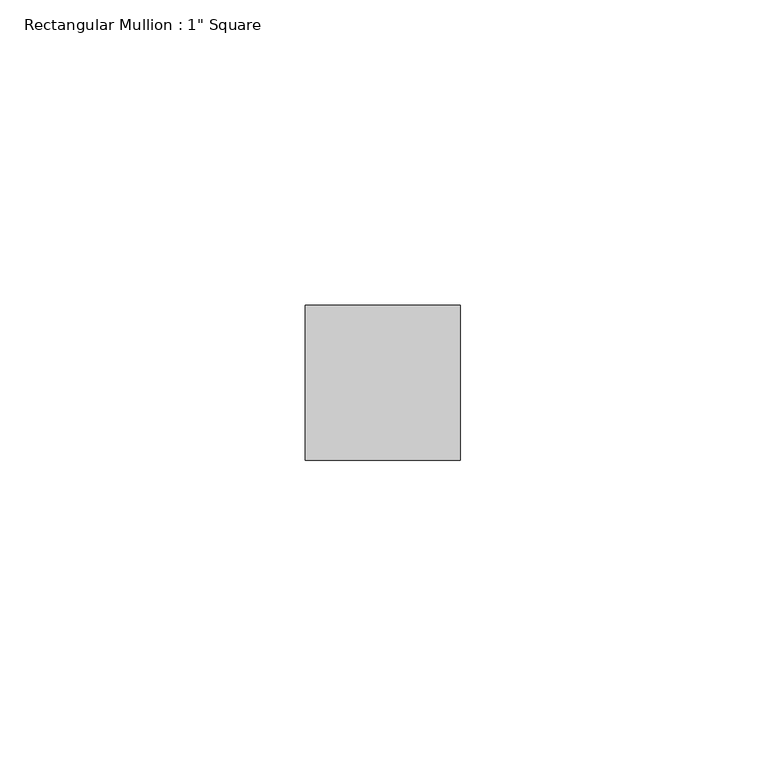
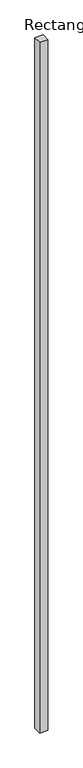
"""IFC4 building model written with IfcOpenShell, lengths in millimetres: member geometry."""

from ifc_helpers import new_model, si_unit, frame, origin, place, context, project, spatial, polyline, outline, extrude, source, transform, mapped, element, save


def member_ba738cde(model_context):
    return source(origin(), model_context, "Body", "SweptSolid", [
        extrude(outline(polyline([(12.7, 12.7), (12.7, -12.7), (-12.7, -12.7), (-12.7, 12.7), (12.7, 12.7)])), frame((0.0, 0.0, -2266.6001057), z_axis=(0.0, 0.0, 1.0), x_axis=(1.0, 0.0, 0.0)), (0.0, 0.0, 1.0), 2266.6001057),
    ])


if __name__ == "__main__":
    model = new_model("IFC4")
    model_context = context("Model", 3, world=origin())
    ifc_project = project(units=[si_unit("LENGTHUNIT", "METRE", prefix="MILLI")], contexts=[model_context])
    site = spatial("IfcSite", under=ifc_project)
    building = spatial("IfcBuilding", under=site)
    placement = place(None, origin())
    member_shape = member_ba738cde(model_context)
    element("IfcMember", 1, ObjectType="Rectangular Mullion : 1\" Square", at=placement, inside=building, context=model_context, shape_type="MappedRepresentation", body=[
        mapped(member_shape, transform((0.0, 0.0, 0.0), x_axis=(1.0, 0.0, 0.0), y_axis=(0.0, 1.0, 0.0), z_axis=(0.0, 0.0, 1.0))),
    ])
    save(model, "model.ifc")
